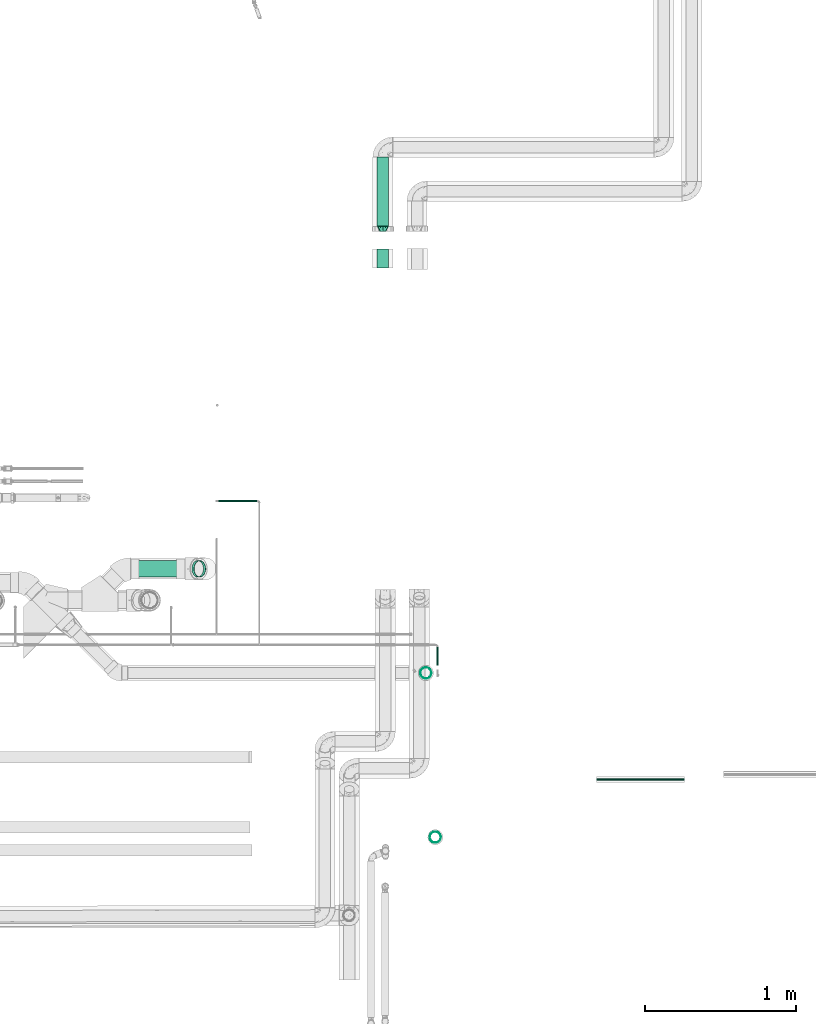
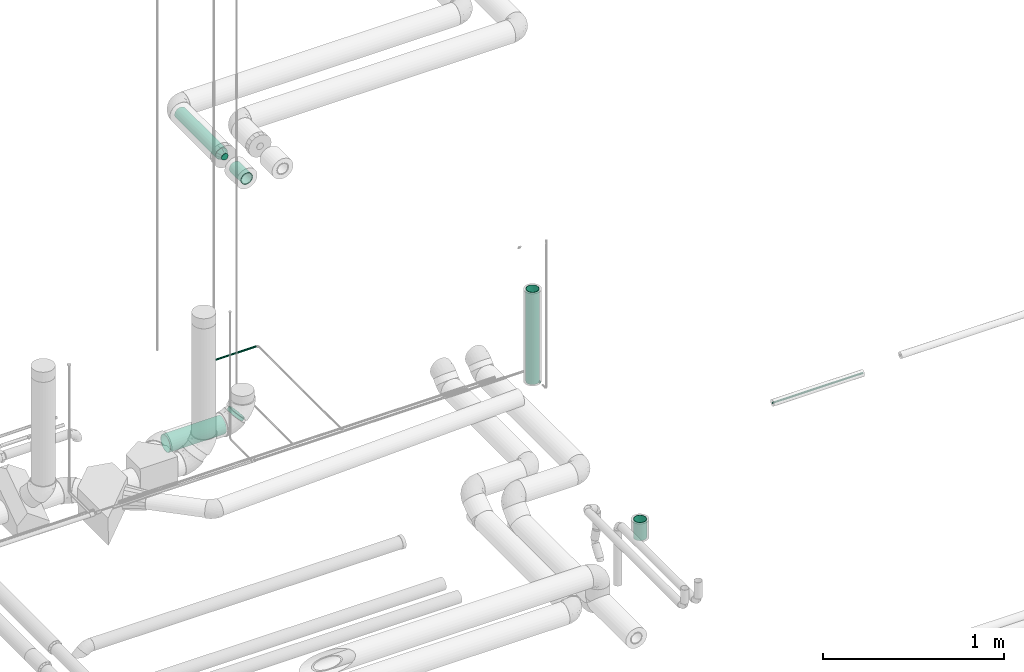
# One storey, part 67 of 156: 9 flow segments, 1 flow fitting.
"""IFC2X3 building model written with IfcOpenShell, lengths in millimetres."""

from ifc_helpers import new_model, entity, si_unit, converted_unit, derived_unit, direction, frame, origin_with_axes, origin_2d_with_axis, place, context, subcontext, project, spatial, hollow_circle, extrude, open_shell, surface_model, source, transform, mapped, type_object, element, save


model = new_model("IFC2X3")

# Units and contexts
model_context = context("Model", 3, precision=0.01, world=frame((0.0, 4.29681676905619e-09, 0.0)), true_north=direction((4.01073788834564e-13, 1.0)))
plan_context = context("Plan", 3, precision=0.01, world=frame((0.0, 4.29681676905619e-09, 0.0)), true_north=direction((4.01073788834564e-13, 1.0)))
body_context = subcontext(model_context, "Body", "Model", "MODEL_VIEW")
ifc_project = project(units=[converted_unit("PLANEANGLEUNIT", "DEGREE", entity("IfcPositiveLengthMeasure", 0.0174532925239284), si_unit("PLANEANGLEUNIT", "RADIAN"), dimensions=[0, 0, 0, 0, 0, 0, 0]), si_unit("AREAUNIT", "SQUARE_METRE"), si_unit("LENGTHUNIT", "METRE", prefix="MILLI"), si_unit("MASSUNIT", "GRAM", prefix="KILO"), si_unit("POWERUNIT", "WATT"), si_unit("PRESSUREUNIT", "PASCAL", prefix="KILO"), si_unit("FORCEUNIT", "NEWTON", prefix="KILO"), si_unit("ELECTRICVOLTAGEUNIT", "VOLT"), si_unit("ELECTRICCURRENTUNIT", "AMPERE"), si_unit("THERMODYNAMICTEMPERATUREUNIT", "DEGREE_CELSIUS"), si_unit("TIMEUNIT", "SECOND"), si_unit("VOLUMEUNIT", "CUBIC_METRE"), derived_unit("LINEARVELOCITYUNIT", [(si_unit("LENGTHUNIT", "METRE"), 1), (si_unit("TIMEUNIT", "SECOND"), -1)]), derived_unit("VOLUMETRICFLOWRATEUNIT", [(si_unit("VOLUMEUNIT", "CUBIC_METRE"), 1), (si_unit("TIMEUNIT", "SECOND"), -1)]), derived_unit("THERMALTRANSMITTANCEUNIT", [(si_unit("POWERUNIT", "WATT"), 1), (si_unit("THERMODYNAMICTEMPERATUREUNIT", "KELVIN"), -1), (si_unit("AREAUNIT", "SQUARE_METRE"), -1)]), derived_unit("SOUNDPRESSUREUNIT", [(si_unit("PRESSUREUNIT", "PASCAL"), 1)])], contexts=[model_context, plan_context])

# Site, building, storey
site_placement = place(None, frame((0.0, -4.29681676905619e-09, 0.0), z_axis=(0.0, 0.0, 1.0), x_axis=(1.0, 0.0, 0.0)))
site = spatial("IfcSite", under=ifc_project, at=site_placement, CompositionType="ELEMENT")
building_placement = place(site_placement, frame((0.0, 4.29681676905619e-09, 0.0), z_axis=(0.0, 0.0, 1.0), x_axis=(1.0, 0.0, 0.0)))
building = spatial("IfcBuilding", under=site, at=building_placement, Name="mc-building", CompositionType="ELEMENT")
storey_placement = place(building_placement, frame((0.0, 0.0, 205200.0), z_axis=(0.0, 0.0, 1.0), x_axis=(1.0, 0.0, 0.0)))
storey = spatial("IfcBuildingStorey", under=building, at=storey_placement, Name="Nivå D + 1,2 m", CompositionType="ELEMENT", Elevation=205200.0)

# Flow fitting
pipe_fitting_type = type_object("IfcPipeFittingType", Name="magi_pipe_fe_reducer_centric_short_001", PredefinedType="TRANSITION")
shared_shape_1 = source(origin_with_axes(), body_context, "Body", "SurfaceModel", [
    surface_model("IfcShellBasedSurfaceModel", [(33.8, -38.1, 0.0), (33.8, 0.0, 38.1), (33.8, -19.05, 32.99557), (-2.0, -10.6, -18.35974), (-2.0, 0.0, -21.2), (-2.0, -5.48696, -20.47763), (-2.0, 0.0, 21.2), (-2.0, 5.48696, 20.47763), (-2.0, 10.6, 18.35974), (-2.0, 14.99066, 14.99066), (-2.0, 18.35974, 10.6), (-2.0, 20.47763, 5.48696), (-2.0, -5.48696, 20.47763), (-2.0, -14.99066, 14.99066), (-2.0, -10.6, 18.35974), (-2.0, -18.35974, 10.6), (-2.0, -21.2, 0.0), (-2.0, -20.47763, 5.48696), (-2.0, 14.99066, -14.99066), (-2.0, 20.47763, -5.48696), (-2.0, 18.35974, -10.6), (-2.0, 10.6, -18.35974), (-2.0, 21.2, 0.0), (0.0, 10.6, -18.35974), (0.0, 0.0, -21.2), (0.0, 5.48696, -20.47763), (0.0, 20.47763, -5.48696), (0.0, 14.99066, -14.99066), (0.0, 18.35974, -10.6), (0.0, -10.6, -18.35974), (0.0, -5.48696, -20.47763), (0.0, -18.35974, -10.6), (0.0, -21.2, 0.0), (0.0, -20.47763, -5.48696), (0.0, 20.47763, 5.48696), (0.0, 18.35974, 10.6), (0.0, 14.99066, 14.99066), (0.0, 10.6, 18.35974), (0.0, 5.48696, 20.47763), (0.0, 0.0, 21.2), (0.0, -18.35974, 10.6), (0.0, -20.47763, 5.48696), (0.0, -14.99066, 14.99066), (0.0, -5.48696, 20.47763), (0.0, -10.6, 18.35974), (-2.0, -20.47763, -5.48696), (-2.0, -18.35974, -10.6), (-2.0, -14.99066, -14.99066), (0.0, -14.99066, -14.99066), (-2.0, 5.48696, -20.47763), (0.0, 21.2, 0.0), (0.0, -6.55116, 20.1624), (0.0, -17.15116, -12.46105), (0.0, -17.15116, 12.46105), (0.0, 6.55116, 20.1624), (0.0, 17.15116, 12.46105), (0.0, 17.15116, -12.46105), (0.0, 6.55116, -20.1624), (35.8, 19.05, -32.99557), (35.8, -19.05, -32.99557), (35.8, 9.86101, -36.80177), (35.8, 36.80177, -9.86101), (35.8, 26.94077, -26.94077), (35.8, -38.1, 0.0), (35.8, 32.99557, -19.05), (35.8, 0.0, -38.1), (35.8, -9.86101, -36.80177), (35.8, -26.94077, -26.94077), (35.8, -32.99557, -19.05), (35.8, -36.80177, -9.86101), (35.8, 38.1, 0.0), (35.8, 36.80177, 9.86101), (35.8, 32.99557, 19.05), (35.8, 26.94077, 26.94077), (35.8, 19.05, 32.99557), (35.8, 9.86101, 36.80177), (35.8, 0.0, 38.1), (35.8, -32.99557, 19.05), (35.8, -36.80177, 9.86101), (35.8, -9.86101, 36.80177), (35.8, -19.05, 32.99557), (35.8, -26.94077, 26.94077), (33.8, 9.86101, 36.80177), (33.8, 26.94077, 26.94077), (33.8, 19.05, 32.99557), (33.8, 32.99557, 19.05), (33.8, 36.80177, 9.86101), (33.8, -9.86101, 36.80177), (33.8, -26.94077, 26.94077), (33.8, -32.99557, 19.05), (33.8, -36.80177, 9.86101), (33.8, 36.80177, -9.86101), (33.8, -32.99557, -19.05), (33.8, 9.86101, -36.80177), (33.8, 32.99557, -19.05), (33.8, 26.94077, -26.94077), (33.8, 19.05, -32.99557), (33.8, -26.94077, -26.94077), (33.8, -36.80177, -9.86101), (33.8, -19.05, -32.99557), (33.8, 0.0, -38.1), (33.8, -9.86101, -36.80177), (33.8, 38.1, 0.0), (0.0, -6.55116, -20.1624), (33.8, -9.525, -35.54778), (33.8, 9.525, -35.54778), (0.0, 0.0, -20.1624), (0.0, -11.85116, -16.31172), (33.8, -26.02278, -26.02278), (0.0, -19.17558, -6.23052), (33.8, -35.95985, -7.98715), (0.0, 11.85116, -16.31172), (0.0, 19.17558, -6.23052), (33.8, 35.95985, -7.98715), (33.8, 26.02278, -26.02278), (33.8, 9.525, 35.54778), (33.8, -9.525, 35.54778), (0.0, 0.0, 20.1624), (0.0, 11.85116, 16.31172), (33.8, 26.02278, 26.02278), (0.0, 19.17558, 6.23052), (33.8, 35.95985, 7.98715), (0.0, -11.85116, 16.31172), (0.0, -19.17558, 6.23052), (33.8, -35.95985, 7.98715), (33.8, -26.02278, 26.02278)], [open_shell([[[0, 1, 2]], [[3, 4, 5]], [[6, 7, 8]], [[9, 10, 11]], [[12, 13, 14]], [[15, 16, 17]], [[18, 19, 20]], [[21, 19, 18]], [[19, 11, 22]], [[23, 24, 25]], [[26, 23, 27]], [[26, 27, 28]], [[24, 29, 30]], [[24, 23, 29]], [[31, 32, 33]], [[34, 35, 36]], [[37, 38, 39]], [[32, 40, 41]], [[42, 43, 44]], [[39, 43, 42]], [[45, 33, 16]], [[46, 31, 45]], [[29, 47, 3]], [[46, 47, 48]], [[30, 3, 5]], [[45, 31, 33]], [[33, 32, 16]], [[30, 29, 3]], [[48, 47, 29]], [[48, 31, 46]], [[24, 30, 5]], [[5, 4, 24]], [[49, 25, 4]], [[21, 23, 49]], [[28, 18, 20]], [[21, 18, 27]], [[26, 20, 19]], [[21, 27, 23]], [[23, 25, 49]], [[50, 26, 19]], [[28, 20, 26]], [[28, 27, 18]], [[22, 50, 19]], [[4, 25, 24]], [[11, 34, 22]], [[10, 35, 11]], [[37, 9, 8]], [[10, 9, 36]], [[38, 8, 7]], [[11, 35, 34]], [[34, 50, 22]], [[38, 37, 8]], [[36, 9, 37]], [[36, 35, 10]], [[39, 38, 7]], [[7, 6, 39]], [[12, 43, 6]], [[14, 44, 12]], [[40, 13, 15]], [[14, 13, 42]], [[41, 15, 17]], [[14, 42, 44]], [[44, 43, 12]], [[32, 41, 17]], [[40, 15, 41]], [[40, 42, 13]], [[16, 32, 17]], [[6, 43, 39]], [[12, 6, 8]], [[8, 9, 12]], [[9, 19, 13]], [[12, 9, 13]], [[16, 15, 13]], [[13, 21, 16]], [[19, 9, 11]], [[13, 19, 21]], [[16, 21, 45]], [[45, 21, 49]], [[46, 3, 47]], [[4, 46, 45]], [[4, 3, 46]], [[45, 49, 4]], [[29, 23, 26]], [[29, 26, 36]], [[29, 31, 48]], [[29, 32, 31]], [[26, 50, 34]], [[29, 36, 32]], [[32, 36, 37]], [[42, 37, 39]], [[40, 32, 42]], [[42, 32, 37]], [[36, 26, 34]], [[51, 52, 53]], [[54, 55, 50]], [[50, 52, 51]], [[53, 52, 32]], [[50, 51, 54]], [[50, 56, 57]], [[58, 59, 60]], [[61, 58, 62]], [[59, 58, 63]], [[61, 62, 64]], [[61, 63, 58]], [[65, 59, 66]], [[65, 60, 59]], [[67, 63, 68]], [[63, 67, 59]], [[63, 69, 68]], [[61, 70, 71]], [[71, 72, 73]], [[71, 73, 74]], [[74, 75, 76]], [[74, 76, 71]], [[76, 63, 61]], [[63, 77, 78]], [[77, 63, 79]], [[77, 80, 81]], [[80, 77, 79]], [[63, 76, 79]], [[76, 61, 71]], [[82, 0, 1]], [[83, 82, 84]], [[83, 85, 86]], [[83, 86, 82]], [[0, 82, 86]], [[87, 88, 2]], [[88, 87, 89]], [[89, 0, 90]], [[0, 89, 87]], [[87, 1, 0]], [[86, 91, 0]], [[92, 0, 91]], [[93, 91, 94]], [[95, 96, 93]], [[95, 93, 94]], [[92, 91, 93]], [[93, 97, 92]], [[98, 0, 92]], [[99, 100, 101]], [[99, 97, 93]], [[99, 93, 100]], [[86, 102, 91]], [[98, 69, 0]], [[92, 68, 98]], [[59, 97, 99]], [[92, 97, 67]], [[66, 99, 101]], [[98, 68, 69]], [[69, 63, 0]], [[66, 59, 99]], [[67, 97, 59]], [[67, 68, 92]], [[65, 66, 101]], [[101, 100, 65]], [[93, 60, 100]], [[96, 58, 93]], [[64, 95, 94]], [[96, 95, 62]], [[61, 94, 91]], [[96, 62, 58]], [[58, 60, 93]], [[70, 61, 91]], [[64, 94, 61]], [[64, 62, 95]], [[102, 70, 91]], [[100, 60, 65]], [[86, 71, 102]], [[85, 72, 86]], [[74, 83, 84]], [[85, 83, 73]], [[75, 84, 82]], [[86, 72, 71]], [[71, 70, 102]], [[75, 74, 84]], [[73, 83, 74]], [[73, 72, 85]], [[76, 75, 82]], [[82, 1, 76]], [[87, 79, 1]], [[2, 80, 87]], [[77, 88, 89]], [[2, 88, 81]], [[78, 89, 90]], [[2, 81, 80]], [[80, 79, 87]], [[63, 78, 90]], [[77, 89, 78]], [[77, 81, 88]], [[0, 63, 90]], [[1, 79, 76]], [[0, 84, 1]], [[84, 94, 85]], [[102, 85, 94]], [[2, 89, 0]], [[94, 0, 92]], [[100, 92, 99]], [[92, 96, 94]], [[96, 92, 100]], [[0, 94, 84]], [[52, 57, 103]], [[57, 52, 50]], [[104, 99, 103]], [[57, 105, 106]], [[107, 108, 52]], [[92, 109, 52]], [[110, 32, 109]], [[96, 57, 111]], [[92, 110, 109]], [[94, 112, 113]], [[108, 107, 99]], [[92, 52, 108]], [[113, 112, 50]], [[56, 94, 114]], [[32, 110, 0]], [[57, 96, 105]], [[107, 103, 99]], [[111, 56, 114]], [[56, 112, 94]], [[50, 102, 113]], [[96, 111, 114]], [[106, 105, 100]], [[104, 106, 100]], [[106, 104, 103]], [[115, 84, 54]], [[51, 116, 117]], [[118, 119, 55]], [[85, 120, 55]], [[121, 50, 120]], [[2, 51, 122]], [[85, 121, 120]], [[89, 123, 124]], [[119, 118, 84]], [[85, 55, 119]], [[124, 123, 32]], [[53, 89, 125]], [[50, 121, 102]], [[51, 2, 116]], [[118, 54, 84]], [[122, 53, 125]], [[53, 123, 89]], [[32, 0, 124]], [[2, 122, 125]], [[117, 116, 1]], [[115, 117, 1]], [[117, 115, 54]]])]),
])
flow_fitting_placement = place(storey_placement, frame((330080.29176, 465043.86795, 4230.59033000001), z_axis=(0.0, -0.000194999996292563, 0.999999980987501), x_axis=(0.0, 0.999999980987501, 0.000194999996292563)))
element("IfcFlowFitting", 1, at=flow_fitting_placement, inside=storey, type_object=pipe_fitting_type, Name="magi_pipe_fe_reducer_centric_short_001", context=body_context, shape_type="MappedRepresentation", body=[
    mapped(shared_shape_1, transform((0.0, 0.0, 0.0), scale=1.0)),
])

# Flow segments
pipe_segment_type_1 = type_object("IfcPipeSegmentType", Name="MA", PredefinedType="RIGIDSEGMENT")
shared_shape_2 = source(origin_with_axes(), body_context, "Body", "SweptSolid", [
    extrude(hollow_circle(Radius=55.0, WallThickness=2.0, at=origin_2d_with_axis()), frame((0.0, 0.0, 0.0), z_axis=(1.0, 0.0, 0.0), x_axis=(0.0, 1.0, 0.0)), (0.0, 0.0, 1.0), 20.3),
])
flow_segment_1_placement = place(storey_placement, frame((328857.15952, 462815.30448, 4264.11348999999), z_axis=(-0.707106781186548, 0.0, 0.707106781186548), x_axis=(0.707106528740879, -0.000844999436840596, 0.707106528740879)))
element("IfcFlowSegment", 2, at=flow_segment_1_placement, inside=storey, type_object=pipe_segment_type_1, Name="MA", context=body_context, shape_type="MappedRepresentation", body=[
    mapped(shared_shape_2, transform((0.0, 0.0, 0.0), scale=1.0)),
])
shared_shape_3 = source(origin_with_axes(), body_context, "Body", "SweptSolid", [
    extrude(hollow_circle(Radius=55.0, WallThickness=2.0, at=origin_2d_with_axis()), frame((0.0, 0.0, 0.0), z_axis=(1.0, 0.0, 0.0), x_axis=(0.0, 1.0, 0.0)), (0.0, 0.0, 1.0), 358.8),
])
flow_segment_2_placement = place(storey_placement, frame((328414.83667, 462815.30448, 4227.88579), z_axis=(-0.00224200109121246, 0.0, 0.999997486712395), x_axis=(0.999997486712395, 0.0, 0.00224200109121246)))
element("IfcFlowSegment", 3, at=flow_segment_2_placement, inside=storey, type_object=pipe_segment_type_1, Name="MA", context=body_context, shape_type="MappedRepresentation", body=[
    mapped(shared_shape_3, transform((0.0, 0.0, 0.0), scale=1.0)),
])
shared_shape_4 = source(origin_with_axes(), body_context, "Body", "SweptSolid", [
    extrude(hollow_circle(Radius=37.5, WallThickness=2.0, at=origin_2d_with_axis()), frame((0.0, 0.0, 0.0), z_axis=(1.0, 0.0, 0.0), x_axis=(0.0, 1.0, 0.0)), (0.0, 0.0, 1.0), 623.2),
])
flow_segment_3_placement = place(storey_placement, frame((330364.34908, 462127.61957, 4384.38821999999), z_axis=(0.0, -1.0, 0.0), x_axis=(0.0, 0.0, 1.0)))
element("IfcFlowSegment", 4, at=flow_segment_3_placement, inside=storey, type_object=pipe_segment_type_1, Name="MA", context=body_context, shape_type="MappedRepresentation", body=[
    mapped(shared_shape_4, transform((0.0, 0.0, 0.0), scale=1.0)),
])
pipe_segment_type_2 = type_object("IfcPipeSegmentType", Name="Kobberrør", PredefinedType="RIGIDSEGMENT")
shared_shape_5 = source(origin_with_axes(), body_context, "Body", "SweptSolid", [
    extrude(hollow_circle(Radius=7.5, WallThickness=2.0, at=origin_2d_with_axis()), frame((0.0, 0.0, 0.0), z_axis=(1.0, 0.0, 0.0), x_axis=(0.0, 1.0, 0.0)), (0.0, 0.0, 1.0), 122.5),
])
flow_segment_4_placement = place(storey_placement, frame((330440.83415, 462298.63355, 4318.0), z_axis=(0.0, 0.0, 1.0), x_axis=(0.0, -1.0, 0.0)))
element("IfcFlowSegment", 5, at=flow_segment_4_placement, inside=storey, type_object=pipe_segment_type_2, Name="Kobberrør", context=body_context, shape_type="MappedRepresentation", body=[
    mapped(shared_shape_5, transform((0.0, 0.0, 0.0), scale=1.0)),
])
shared_shape_6 = source(origin_with_axes(), body_context, "Body", "SweptSolid", [
    extrude(hollow_circle(Radius=6.0, WallThickness=2.0, at=origin_2d_with_axis()), frame((0.0, 0.0, 0.0), z_axis=(1.0, 0.0, 0.0), x_axis=(0.0, 1.0, 0.0)), (0.0, 0.0, 1.0), 258.4),
])
flow_segment_5_placement = place(storey_placement, frame((329251.73717, 463263.33804, 4318.0), z_axis=(0.0, 0.0, 1.0), x_axis=(-1.0, 0.0, 0.0)))
element("IfcFlowSegment", 6, at=flow_segment_5_placement, inside=storey, type_object=pipe_segment_type_2, Name="Kobberrør", context=body_context, shape_type="MappedRepresentation", body=[
    mapped(shared_shape_6, transform((0.0, 0.0, 0.0), scale=1.0)),
])
shared_shape_7 = source(origin_with_axes(), body_context, "Body", "SweptSolid", [
    extrude(hollow_circle(Radius=37.5, WallThickness=2.0, at=origin_2d_with_axis()), frame((0.0, 0.0, 0.0), z_axis=(1.0, 0.0, 0.0), x_axis=(0.0, 1.0, 0.0)), (0.0, 0.0, 1.0), 122.1),
])
flow_segment_6_placement = place(storey_placement, frame((330426.17907, 461043.225, 3965.23793), z_axis=(-0.951056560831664, 0.309016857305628, 0.0), x_axis=(0.0, 0.0, 1.0)))
element("IfcFlowSegment", 7, at=flow_segment_6_placement, inside=storey, type_object=pipe_segment_type_1, Name="MA", context=body_context, shape_type="MappedRepresentation", body=[
    mapped(shared_shape_7, transform((0.0, 0.0, 0.0), scale=1.0)),
])
pipe_segment_type_3 = type_object("IfcPipeSegmentType", Name="Stålrør normaltykke", PredefinedType="RIGIDSEGMENT")
shared_shape_8 = source(origin_with_axes(), body_context, "Body", "SweptSolid", [
    extrude(hollow_circle(Radius=38.0, WallThickness=2.0, at=origin_2d_with_axis()), frame((0.0, 0.0, 0.0), z_axis=(1.0, 0.0, 0.0), x_axis=(0.0, 1.0, 0.0)), (0.0, 0.0, 1.0), 456.4),
])
flow_segment_7_placement = place(storey_placement, frame((330080.29187, 465077.66795, 4230.59706), z_axis=(0.0, 0.0, 1.0), x_axis=(0.0, 1.0, 0.0)))
element("IfcFlowSegment", 8, at=flow_segment_7_placement, inside=storey, type_object=pipe_segment_type_3, Name="Stålrør normaltykke", context=body_context, shape_type="MappedRepresentation", body=[
    mapped(shared_shape_8, transform((0.0, 0.0, 0.0), scale=1.0)),
])
shared_shape_9 = source(origin_with_axes(), body_context, "Body", "SweptSolid", [
    extrude(hollow_circle(Radius=38.0, WallThickness=2.0, at=origin_2d_with_axis()), frame((0.0, 0.0, 0.0), z_axis=(1.0, 0.0, 0.0), x_axis=(0.0, 1.0, 0.0)), (0.0, 0.0, 1.0), 128.1),
])
flow_segment_8_placement = place(storey_placement, frame((330080.29033, 464801.00146, 4230.50536000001), z_axis=(0.0, -0.000245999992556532, 0.999999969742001), x_axis=(3.99999987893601e-06, 0.999999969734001, 0.000245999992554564)))
element("IfcFlowSegment", 9, at=flow_segment_8_placement, inside=storey, type_object=pipe_segment_type_3, Name="Stålrør normaltykke", context=body_context, shape_type="MappedRepresentation", body=[
    mapped(shared_shape_9, transform((0.0, 0.0, 0.0), scale=1.0)),
])
shared_shape_10 = source(origin_with_axes(), body_context, "Body", "SweptSolid", [
    extrude(hollow_circle(Radius=6.0, WallThickness=2.0, at=origin_2d_with_axis()), frame((0.0, 0.0, 0.0), z_axis=(1.0, 0.0, 0.0), x_axis=(0.0, 1.0, 0.0)), (0.0, 0.0, 1.0), 579.2),
])
flow_segment_9_placement = place(storey_placement, frame((331491.82315, 461424.50941, 4266.92687), z_axis=(0.0, 0.0, 1.0), x_axis=(1.0, 0.0, 0.0)))
element("IfcFlowSegment", 10, at=flow_segment_9_placement, inside=storey, type_object=pipe_segment_type_2, Name="Kobberrør", context=body_context, shape_type="MappedRepresentation", body=[
    mapped(shared_shape_10, transform((0.0, 0.0, 0.0), scale=1.0)),
])

save(model, "model.ifc")
